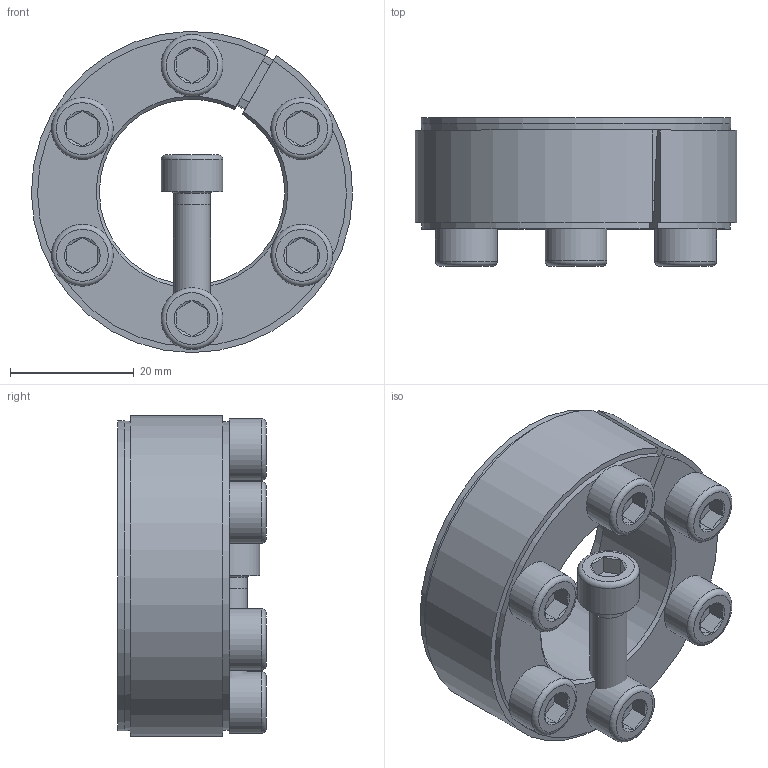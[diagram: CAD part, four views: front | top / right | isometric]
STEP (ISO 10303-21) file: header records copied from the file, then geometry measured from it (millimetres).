
FILE_DESCRIPTION( ( 'Unknown' ), '1' );
FILE_NAME( 'C:/Dokumente und Einstellungen/Sven/Desktop/homepage/cad - homepage/KBS52/KBS 52 - 30 x 52.stp', 'Unknown', ( 'Unknown' ), ( 'Unknown' ), 'XStep 1.0', 'Unknown', ' ' );
FILE_SCHEMA( ( 'automotive_design' ) );
Length unit declared in the file: millimetre
Products named in the file (3): Assem1; KBS 52 - 30 x 52; ISO EN DIN 4762 M6x18
Bounding box: 51.99 x 24 x 51.99 mm (x, y, z)
Volume: 49748.6 mm3; surface area: 23717.6 mm2
Topology: 9 solids, 9 shells, 227 faces, 453 edges, 270 vertices
Faces by surface type: plane 110, cone 55, cylinder 48, torus 14
Full cylindrical faces by diameter (mm): 5 x7, 6 x26, 10 x7, 50.175 x2
Entity records: 1645 total; most frequent: CARTESIAN_POINT 271, DIRECTION 247, ORIENTED_EDGE 188, AXIS2_PLACEMENT_3D 102, EDGE_CURVE 94, EDGE_LOOP 84, VERTEX_POINT 66, FACE_OUTER_BOUND 64
